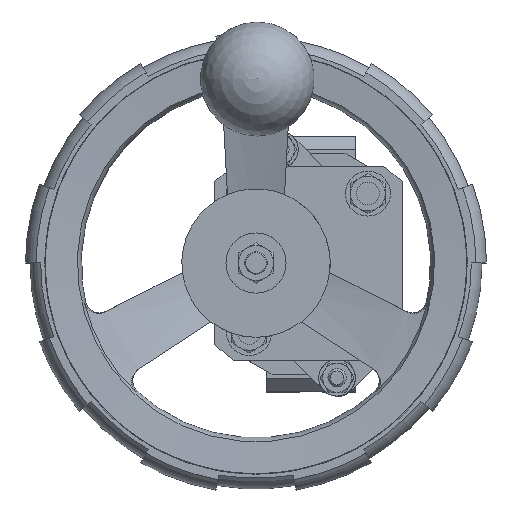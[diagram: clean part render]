
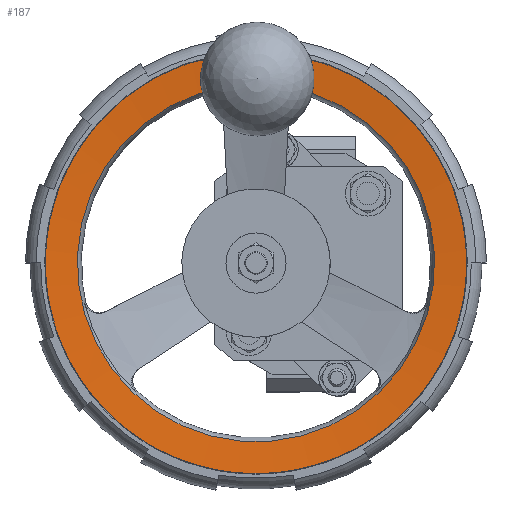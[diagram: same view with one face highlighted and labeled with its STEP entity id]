
A CAD part, top view. The second image highlights one B-rep face of the part: STEP entity #187.
In plain terms, the highlighted conical face has half-angle 85 degrees and reference radius 92.5 mm.
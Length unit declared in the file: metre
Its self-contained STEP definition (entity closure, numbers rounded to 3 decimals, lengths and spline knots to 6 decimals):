
#187=ADVANCED_FACE('',(#973),#974,.F.);
#973=FACE_OUTER_BOUND('',#2491,.T.);
#974=CONICAL_SURFACE('',#2492,0.0925,1.484);
#2491=EDGE_LOOP('',(#5331,#5332,#5333,#5334,#5335,#5336));
#2492=AXIS2_PLACEMENT_3D('',#5337,#5338,#5339);
#5331=ORIENTED_EDGE('',*,*,#9765,.F.);
#5332=ORIENTED_EDGE('',*,*,#9754,.T.);
#5333=ORIENTED_EDGE('',*,*,#9766,.T.);
#5334=ORIENTED_EDGE('',*,*,#9767,.T.);
#5335=ORIENTED_EDGE('',*,*,#9768,.T.);
#5336=ORIENTED_EDGE('',*,*,#9761,.T.);
#5337=CARTESIAN_POINT('',(-0.023,0.,0.300744));
#5338=DIRECTION('',(-0.0,0.,1.0));
#5339=DIRECTION('',(0.0,-1.0,0.));
#9754=EDGE_CURVE('',#11599,#11600,#11601,.T.);
#9761=EDGE_CURVE('',#11611,#11609,#11612,.T.);
#9765=EDGE_CURVE('',#11599,#11609,#11618,.T.);
#9766=EDGE_CURVE('',#11600,#11619,#11620,.T.);
#9767=EDGE_CURVE('',#11619,#11621,#11622,.T.);
#9768=EDGE_CURVE('',#11621,#11611,#11623,.T.);
#11599=VERTEX_POINT('',#15103);
#11600=VERTEX_POINT('',#15104);
#11601=B_SPLINE_CURVE_WITH_KNOTS('',3,(#15105,#15106,#15107,#15108),.UNSPECIFIED.,.F.,.F.,(4,4),(0.012702,0.024396),.UNSPECIFIED.);
#11609=VERTEX_POINT('',#15121);
#11611=VERTEX_POINT('',#15124);
#11612=B_SPLINE_CURVE_WITH_KNOTS('',3,(#15125,#15126,#15127,#15128),.UNSPECIFIED.,.F.,.F.,(4,4),(0.021218,0.032913),.UNSPECIFIED.);
#11618=CIRCLE('',#15135,0.0925);
#11619=VERTEX_POINT('',#15136);
#11620=B_SPLINE_CURVE_WITH_KNOTS('',3,(#15137,#15138,#15139,#15140,#15141,#15142),.UNSPECIFIED.,.F.,.F.,(4,2,4),(0.019436,0.020778,0.022121),.UNSPECIFIED.);
#11621=VERTEX_POINT('',#15143);
#11622=CIRCLE('',#15144,0.07828);
#11623=B_SPLINE_CURVE_WITH_KNOTS('',3,(#15145,#15146,#15147,#15148),.UNSPECIFIED.,.F.,.F.,(4,4),(0.000002,0.002702),.UNSPECIFIED.);
#15103=CARTESIAN_POINT('',(-0.0105,0.091652,0.300744));
#15104=CARTESIAN_POINT('',(-0.0105,0.080001,0.299735));
#15105=CARTESIAN_POINT('',(-0.0105,0.091652,0.300744));
#15106=CARTESIAN_POINT('',(-0.0105,0.087768,0.300407));
#15107=CARTESIAN_POINT('',(-0.0105,0.083885,0.300071));
#15108=CARTESIAN_POINT('',(-0.0105,0.080001,0.299735));
#15121=CARTESIAN_POINT('',(-0.0355,0.091652,0.300744));
#15124=CARTESIAN_POINT('',(-0.0355,0.080001,0.299735));
#15125=CARTESIAN_POINT('',(-0.0355,0.080001,0.299735));
#15126=CARTESIAN_POINT('',(-0.0355,0.083885,0.300071));
#15127=CARTESIAN_POINT('',(-0.0355,0.087768,0.300407));
#15128=CARTESIAN_POINT('',(-0.0355,0.091652,0.300744));
#15135=AXIS2_PLACEMENT_3D('',#19947,#19948,#19949);
#15136=CARTESIAN_POINT('',(-0.01079,0.077322,0.2995));
#15137=CARTESIAN_POINT('',(-0.0105,0.080001,0.299735));
#15138=CARTESIAN_POINT('',(-0.0105,0.079555,0.299697));
#15139=CARTESIAN_POINT('',(-0.010524,0.079108,0.299658));
#15140=CARTESIAN_POINT('',(-0.010621,0.078211,0.299579));
#15141=CARTESIAN_POINT('',(-0.010693,0.077764,0.299539));
#15142=CARTESIAN_POINT('',(-0.01079,0.077322,0.2995));
#15143=CARTESIAN_POINT('',(-0.03521,0.077322,0.2995));
#15144=AXIS2_PLACEMENT_3D('',#19950,#19951,#19952);
#15145=CARTESIAN_POINT('',(-0.03521,0.077322,0.2995));
#15146=CARTESIAN_POINT('',(-0.035404,0.078211,0.299579));
#15147=CARTESIAN_POINT('',(-0.0355,0.079104,0.299658));
#15148=CARTESIAN_POINT('',(-0.0355,0.080001,0.299735));
#19947=CARTESIAN_POINT('',(-0.023,0.,0.300744));
#19948=DIRECTION('',(0.0,0.,-1.0));
#19949=DIRECTION('',(0.0,1.0,0.));
#19950=CARTESIAN_POINT('',(-0.023,0.,0.2995));
#19951=DIRECTION('',(0.0,0.,-1.0));
#19952=DIRECTION('',(0.0,1.0,0.));
